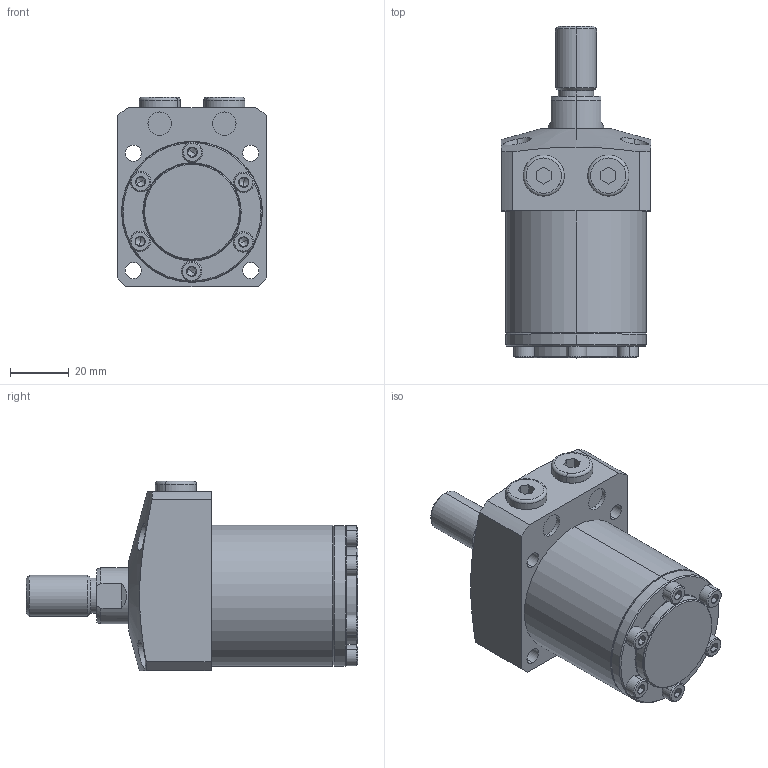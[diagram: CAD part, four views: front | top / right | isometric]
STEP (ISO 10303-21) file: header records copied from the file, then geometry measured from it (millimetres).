
FILE_DESCRIPTION (( 'STEP AP203' ), '1' );
FILE_NAME ('680480-CT-040.STEP', '2019-11-06T04:44:57', ( '微软用户' ), ( '微软中国' ), 'SwSTEP 2.0', 'SolidWorks 2014', '' );
FILE_SCHEMA (( 'CONFIG_CONTROL_DESIGN' ));
Length unit declared in the file: millimetre
Products named in the file (6): 680480-CT-040; 1^680480-CT-040; 2^680480-CT-040; 3^680480-CT-040; 4^680480-CT-040; 5^680480-CT-040
Assembly tree (11 placements, depth 2):
  680480-CT-040
    1^680480-CT-040
    2^680480-CT-040
    3^680480-CT-040  x6
    4^680480-CT-040  x2
    5^680480-CT-040
Bounding box: 51 x 113 x 64.5 mm (x, y, z)
Volume: 175954.5 mm3; surface area: 33699.9 mm2
Topology: 11 solids, 11 shells, 342 faces, 668 edges, 365 vertices
Faces by surface type: plane 139, cone 97, cylinder 90, torus 16
Entity records: 5549 total; most frequent: CARTESIAN_POINT 1137, DIRECTION 839, ORIENTED_EDGE 684, AXIS2_PLACEMENT_3D 350, EDGE_CURVE 342, VERTEX_POINT 208, EDGE_LOOP 198, CIRCLE 175
